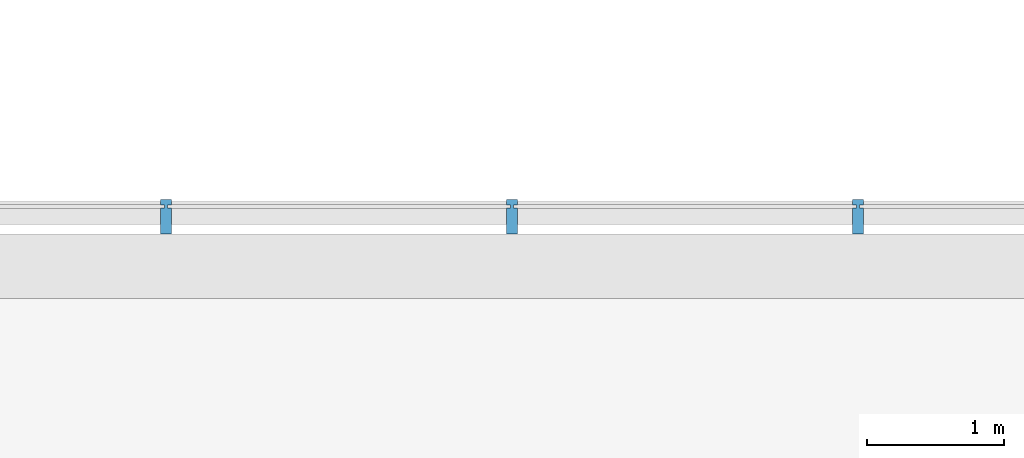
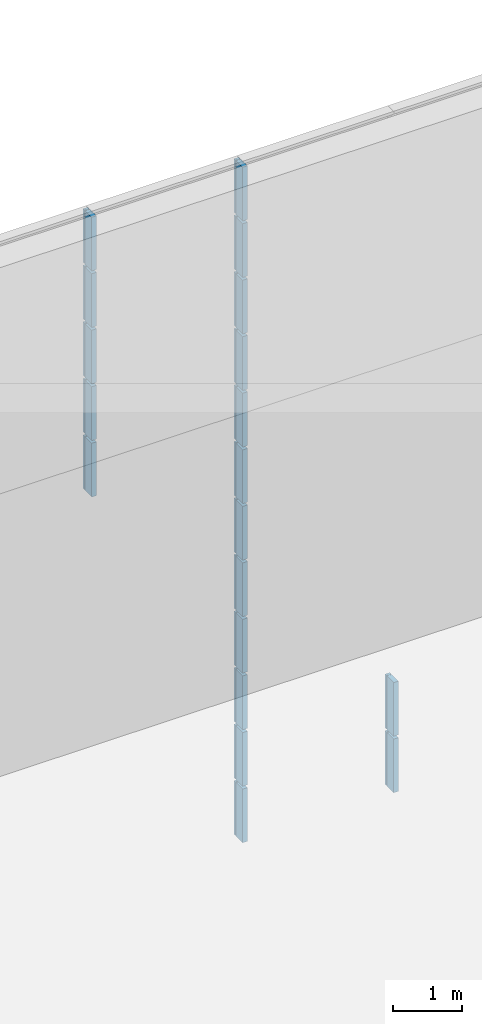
# One storey, part 98 of 105: 19 building element parts, 4 elements without a shape of their own.
"""IFC4 building model written with IfcOpenShell, lengths in millimetres."""

from ifc_helpers import new_model, entity, si_unit, converted_unit, derived_unit, direction, frame, origin_with_axes, place, context, subcontext, project, spatial, triangles, material, element, aggregate, save


model = new_model("IFC4")

# Units and contexts
model_context = context("Model", 3, precision=1e-05, world=origin_with_axes(), true_north=direction((0.0, 1.0)))
body_context = subcontext(model_context, "Body", "Model", "MODEL_VIEW")
ifc_project = project(units=[si_unit("LENGTHUNIT", "METRE", prefix="MILLI"), si_unit("AREAUNIT", "SQUARE_METRE"), si_unit("VOLUMEUNIT", "CUBIC_METRE"), converted_unit("PLANEANGLEUNIT", "DEGREE", entity("IfcLengthMeasure", 0.017453), si_unit("PLANEANGLEUNIT", "RADIAN"), dimensions=[0, 0, 0, 0, 0, 0, 0]), si_unit("SOLIDANGLEUNIT", "STERADIAN"), si_unit("MASSUNIT", "GRAM"), si_unit("TIMEUNIT", "SECOND"), si_unit("THERMODYNAMICTEMPERATUREUNIT", "DEGREE_CELSIUS"), si_unit("LUMINOUSINTENSITYUNIT", "LUMEN"), si_unit("POWERUNIT", "WATT"), derived_unit("THERMALTRANSMITTANCEUNIT", [(si_unit("POWERUNIT", "WATT"), 1), (si_unit("THERMODYNAMICTEMPERATUREUNIT", "KELVIN"), -1), (si_unit("AREAUNIT", "SQUARE_METRE"), -1)])], contexts=[model_context])

# Site, building, storey
site_placement = place(None, origin_with_axes())
site = spatial("IfcSite", under=ifc_project, at=site_placement, Name="Default Site", CompositionType="ELEMENT")
building_placement = place(site_placement, origin_with_axes())
building = spatial("IfcBuilding", under=site, at=building_placement, Name="Default Building", CompositionType="ELEMENT")
storey_placement = place(building_placement, origin_with_axes())
storey = spatial("IfcBuildingStorey", under=building, at=storey_placement, Name="OG - Story", CompositionType="ELEMENT", Elevation=0.0)

# Curtain wall, building element parts
curtain_wall_1_placement = place(storey_placement, origin_with_axes())
curtain_wall_1 = element("IfcCurtainWall", 1, at=curtain_wall_1_placement, inside=storey, Name="Fassade-004", PredefinedType="NOTDEFINED")
ifc_material = material(Name="Blech")
building_element_part_1_placement = place(curtain_wall_1_placement, frame((33014.549222, -4389.262838, 0.0), z_axis=(0.0, 0.0, 1.0), x_axis=(1.0, 0.0, 0.0)))
building_element_part_1 = element("IfcBuildingElementPart", 2, at=building_element_part_1_placement, material=ifc_material, Name="Blech", PredefinedType="NOTDEFINED", context=body_context, shape_type="Tessellation", body=[
    triangles([(36671.579, -9.999, 975.0), (36671.579, -199.999, 975.0), (36641.579, -9.999, 975.0), (36621.579, -9.999, 975.0), (36641.579, 10.0, 975.0), (36671.579, 50.0, 975.0), (36671.579, 10.0, 975.0), (36591.579, -199.999, 975.0), (36591.579, -9.999, 975.0), (36621.579, 10.0, 975.0), (36591.579, 10.0, 975.0), (36591.579, 50.0, 975.0), (36641.579, -9.999, 25.0), (36641.579, 10.0, 25.0), (36671.579, 10.0, 25.0), (36671.579, 50.0, 25.0), (36591.579, 50.0, 25.0), (36591.579, 10.0, 25.0), (36621.579, 10.0, 25.0), (36621.579, -9.999, 25.0), (36591.579, -9.999, 25.0), (36591.579, -199.999, 25.0), (36671.579, -199.999, 25.0), (36671.579, -9.999, 25.0)], [[1, 2, 3], [3, 2, 4], [3, 4, 5], [5, 4, 6], [5, 6, 7], [8, 9, 4], [8, 4, 2], [6, 4, 10], [6, 10, 11], [6, 11, 12], [3, 13, 14], [3, 14, 5], [5, 14, 15], [5, 15, 7], [15, 16, 6], [15, 6, 7], [12, 6, 16], [12, 16, 17], [18, 11, 12], [18, 12, 17], [11, 18, 19], [11, 19, 10], [4, 10, 19], [4, 19, 20], [9, 4, 20], [9, 20, 21], [9, 21, 22], [9, 22, 8], [2, 8, 22], [2, 22, 23], [1, 2, 23], [1, 23, 24], [1, 24, 13], [1, 13, 3], [15, 16, 14], [14, 16, 19], [14, 19, 13], [13, 19, 23], [13, 23, 24], [17, 18, 19], [17, 19, 16], [23, 19, 20], [23, 20, 21], [23, 21, 22]], closed=False),
])
building_element_part_2_placement = place(curtain_wall_1_placement, frame((33014.549222, -4389.262838, 0.0), z_axis=(0.0, 0.0, 1.0), x_axis=(1.0, 0.0, 0.0)))
building_element_part_2 = element("IfcBuildingElementPart", 3, at=building_element_part_2_placement, material=ifc_material, Name="Blech", PredefinedType="NOTDEFINED", context=body_context, shape_type="Tessellation", body=[
    triangles([(39197.895, -9.999, 975.0), (39197.895, -199.999, 975.0), (39167.895, -9.999, 975.0), (39147.895, -9.999, 975.0), (39167.895, 10.0, 975.0), (39197.895, 50.0, 975.0), (39197.895, 10.0, 975.0), (39117.895, -199.999, 975.0), (39117.895, -9.999, 975.0), (39147.895, 10.0, 975.0), (39117.895, 10.0, 975.0), (39117.895, 50.0, 975.0), (39167.895, -9.999, 25.0), (39167.895, 10.0, 25.0), (39197.895, 10.0, 25.0), (39197.895, 50.0, 25.0), (39117.895, 50.0, 25.0), (39117.895, 10.0, 25.0), (39147.895, 10.0, 25.0), (39147.895, -9.999, 25.0), (39117.895, -9.999, 25.0), (39117.895, -199.999, 25.0), (39197.895, -199.999, 25.0), (39197.895, -9.999, 25.0)], [[1, 2, 3], [3, 2, 4], [3, 4, 5], [5, 4, 6], [5, 6, 7], [8, 9, 4], [8, 4, 2], [6, 4, 10], [6, 10, 11], [6, 11, 12], [3, 13, 14], [3, 14, 5], [5, 14, 15], [5, 15, 7], [15, 16, 6], [15, 6, 7], [12, 6, 16], [12, 16, 17], [18, 11, 12], [18, 12, 17], [11, 18, 19], [11, 19, 10], [4, 10, 19], [4, 19, 20], [9, 4, 20], [9, 20, 21], [9, 21, 22], [9, 22, 8], [2, 8, 22], [2, 22, 23], [1, 2, 23], [1, 23, 24], [1, 24, 13], [1, 13, 3], [15, 16, 14], [14, 16, 19], [14, 19, 13], [13, 19, 23], [13, 23, 24], [17, 18, 19], [17, 19, 16], [23, 19, 20], [23, 20, 21], [23, 21, 22]], closed=False),
])
building_element_part_3_placement = place(curtain_wall_1_placement, frame((33014.549222, -4389.262838, 0.0), z_axis=(0.0, 0.0, 1.0), x_axis=(1.0, 0.0, 0.0)))
building_element_part_3 = element("IfcBuildingElementPart", 4, at=building_element_part_3_placement, material=ifc_material, Name="Blech", PredefinedType="NOTDEFINED", context=body_context, shape_type="Tessellation", body=[
    triangles([(36671.579, -9.999, 1975.0), (36671.579, -199.999, 1975.0), (36641.579, -9.999, 1975.0), (36621.579, -9.999, 1975.0), (36641.579, 10.0, 1975.0), (36671.579, 50.0, 1975.0), (36671.579, 10.0, 1975.0), (36591.579, -199.999, 1975.0), (36591.579, -9.999, 1975.0), (36621.579, 10.0, 1975.0), (36591.579, 10.0, 1975.0), (36591.579, 50.0, 1975.0), (36641.579, -9.999, 1025.0), (36641.579, 10.0, 1025.0), (36671.579, 10.0, 1025.0), (36671.579, 50.0, 1025.0), (36591.579, 50.0, 1025.0), (36591.579, 10.0, 1025.0), (36621.579, 10.0, 1025.0), (36621.579, -9.999, 1025.0), (36591.579, -9.999, 1025.0), (36591.579, -199.999, 1025.0), (36671.579, -199.999, 1025.0), (36671.579, -9.999, 1025.0)], [[1, 2, 3], [3, 2, 4], [3, 4, 5], [5, 4, 6], [5, 6, 7], [8, 9, 4], [8, 4, 2], [6, 4, 10], [6, 10, 11], [6, 11, 12], [3, 13, 14], [3, 14, 5], [5, 14, 15], [5, 15, 7], [15, 16, 6], [15, 6, 7], [12, 6, 16], [12, 16, 17], [18, 11, 12], [18, 12, 17], [11, 18, 19], [11, 19, 10], [4, 10, 19], [4, 19, 20], [9, 4, 20], [9, 20, 21], [9, 21, 22], [9, 22, 8], [2, 8, 22], [2, 22, 23], [1, 2, 23], [1, 23, 24], [1, 24, 13], [1, 13, 3], [15, 16, 14], [14, 16, 19], [14, 19, 13], [13, 19, 23], [13, 23, 24], [17, 18, 19], [17, 19, 16], [23, 19, 20], [23, 20, 21], [23, 21, 22]], closed=False),
])
building_element_part_4_placement = place(curtain_wall_1_placement, frame((33014.549222, -4389.262838, 0.0), z_axis=(0.0, 0.0, 1.0), x_axis=(1.0, 0.0, 0.0)))
building_element_part_4 = element("IfcBuildingElementPart", 5, at=building_element_part_4_placement, material=ifc_material, Name="Blech", PredefinedType="NOTDEFINED", context=body_context, shape_type="Tessellation", body=[
    triangles([(39197.895, -9.999, 1975.0), (39197.895, -199.999, 1975.0), (39167.895, -9.999, 1975.0), (39147.895, -9.999, 1975.0), (39167.895, 10.0, 1975.0), (39197.895, 50.0, 1975.0), (39197.895, 10.0, 1975.0), (39117.895, -199.999, 1975.0), (39117.895, -9.999, 1975.0), (39147.895, 10.0, 1975.0), (39117.895, 10.0, 1975.0), (39117.895, 50.0, 1975.0), (39167.895, -9.999, 1025.0), (39167.895, 10.0, 1025.0), (39197.895, 10.0, 1025.0), (39197.895, 50.0, 1025.0), (39117.895, 50.0, 1025.0), (39117.895, 10.0, 1025.0), (39147.895, 10.0, 1025.0), (39147.895, -9.999, 1025.0), (39117.895, -9.999, 1025.0), (39117.895, -199.999, 1025.0), (39197.895, -199.999, 1025.0), (39197.895, -9.999, 1025.0)], [[1, 2, 3], [3, 2, 4], [3, 4, 5], [5, 4, 6], [5, 6, 7], [8, 9, 4], [8, 4, 2], [6, 4, 10], [6, 10, 11], [6, 11, 12], [3, 13, 14], [3, 14, 5], [5, 14, 15], [5, 15, 7], [15, 16, 6], [15, 6, 7], [12, 6, 16], [12, 16, 17], [18, 11, 12], [18, 12, 17], [11, 18, 19], [11, 19, 10], [4, 10, 19], [4, 19, 20], [9, 4, 20], [9, 20, 21], [9, 21, 22], [9, 22, 8], [2, 8, 22], [2, 22, 23], [1, 2, 23], [1, 23, 24], [1, 24, 13], [1, 13, 3], [15, 16, 14], [14, 16, 19], [14, 19, 13], [13, 19, 23], [13, 23, 24], [17, 18, 19], [17, 19, 16], [23, 19, 20], [23, 20, 21], [23, 21, 22]], closed=False),
])
building_element_part_5_placement = place(curtain_wall_1_placement, frame((33014.549222, -4389.262838, 0.0), z_axis=(0.0, 0.0, 1.0), x_axis=(1.0, 0.0, 0.0)))
building_element_part_5 = element("IfcBuildingElementPart", 6, at=building_element_part_5_placement, material=ifc_material, Name="Blech", PredefinedType="NOTDEFINED", context=body_context, shape_type="Tessellation", body=[
    triangles([(36671.579, -9.999, 2975.0), (36671.579, -199.999, 2975.0), (36641.579, -9.999, 2975.0), (36621.579, -9.999, 2975.0), (36641.579, 10.0, 2975.0), (36671.579, 50.0, 2975.0), (36671.579, 10.0, 2975.0), (36591.579, -199.999, 2975.0), (36591.579, -9.999, 2975.0), (36621.579, 10.0, 2975.0), (36591.579, 10.0, 2975.0), (36591.579, 50.0, 2975.0), (36641.579, -9.999, 2025.0), (36641.579, 10.0, 2025.0), (36671.579, 10.0, 2025.0), (36671.579, 50.0, 2025.0), (36591.579, 50.0, 2025.0), (36591.579, 10.0, 2025.0), (36621.579, 10.0, 2025.0), (36621.579, -9.999, 2025.0), (36591.579, -9.999, 2025.0), (36591.579, -199.999, 2025.0), (36671.579, -199.999, 2025.0), (36671.579, -9.999, 2025.0)], [[1, 2, 3], [3, 2, 4], [3, 4, 5], [5, 4, 6], [5, 6, 7], [8, 9, 4], [8, 4, 2], [6, 4, 10], [6, 10, 11], [6, 11, 12], [3, 13, 14], [3, 14, 5], [5, 14, 15], [5, 15, 7], [15, 16, 6], [15, 6, 7], [12, 6, 16], [12, 16, 17], [18, 11, 12], [18, 12, 17], [11, 18, 19], [11, 19, 10], [4, 10, 19], [4, 19, 20], [9, 4, 20], [9, 20, 21], [9, 21, 22], [9, 22, 8], [2, 8, 22], [2, 22, 23], [1, 2, 23], [1, 23, 24], [1, 24, 13], [1, 13, 3], [15, 16, 14], [14, 16, 19], [14, 19, 13], [13, 19, 23], [13, 23, 24], [17, 18, 19], [17, 19, 16], [23, 19, 20], [23, 20, 21], [23, 21, 22]], closed=False),
])
aggregate(curtain_wall_1, [building_element_part_1, building_element_part_2, building_element_part_3, building_element_part_4, building_element_part_5])

curtain_wall_2_placement = place(storey_placement, origin_with_axes())
curtain_wall_2 = element("IfcCurtainWall", 7, at=curtain_wall_2_placement, inside=storey, Name="Fassade-004", PredefinedType="NOTDEFINED")
building_element_part_6_placement = place(curtain_wall_2_placement, frame((33014.549222, -4389.262838, 3000.0), z_axis=(0.0, 0.0, 1.0), x_axis=(1.0, 0.0, 0.0)))
building_element_part_6 = element("IfcBuildingElementPart", 8, at=building_element_part_6_placement, material=ifc_material, Name="Blech", PredefinedType="NOTDEFINED", context=body_context, shape_type="Tessellation", body=[
    triangles([(36671.579, -9.999, 975.0), (36671.579, -199.999, 975.0), (36641.579, -9.999, 975.0), (36621.579, -9.999, 975.0), (36641.579, 10.0, 975.0), (36671.579, 50.0, 975.0), (36671.579, 10.0, 975.0), (36591.579, -199.999, 975.0), (36591.579, -9.999, 975.0), (36621.579, 10.0, 975.0), (36591.579, 10.0, 975.0), (36591.579, 50.0, 975.0), (36641.579, -9.999, 25.0), (36641.579, 10.0, 25.0), (36671.579, 10.0, 25.0), (36671.579, 50.0, 25.0), (36591.579, 50.0, 25.0), (36591.579, 10.0, 25.0), (36621.579, 10.0, 25.0), (36621.579, -9.999, 25.0), (36591.579, -9.999, 25.0), (36591.579, -199.999, 25.0), (36671.579, -199.999, 25.0), (36671.579, -9.999, 25.0)], [[1, 2, 3], [3, 2, 4], [3, 4, 5], [5, 4, 6], [5, 6, 7], [8, 9, 4], [8, 4, 2], [6, 4, 10], [6, 10, 11], [6, 11, 12], [3, 13, 14], [3, 14, 5], [5, 14, 15], [5, 15, 7], [15, 16, 6], [15, 6, 7], [12, 6, 16], [12, 16, 17], [18, 11, 12], [18, 12, 17], [11, 18, 19], [11, 19, 10], [4, 10, 19], [4, 19, 20], [9, 4, 20], [9, 20, 21], [9, 21, 22], [9, 22, 8], [2, 8, 22], [2, 22, 23], [1, 2, 23], [1, 23, 24], [1, 24, 13], [1, 13, 3], [15, 16, 14], [14, 16, 19], [14, 19, 13], [13, 19, 23], [13, 23, 24], [17, 18, 19], [17, 19, 16], [23, 19, 20], [23, 20, 21], [23, 21, 22]], closed=False),
])
building_element_part_7_placement = place(curtain_wall_2_placement, frame((33014.549222, -4389.262838, 3000.0), z_axis=(0.0, 0.0, 1.0), x_axis=(1.0, 0.0, 0.0)))
building_element_part_7 = element("IfcBuildingElementPart", 9, at=building_element_part_7_placement, material=ifc_material, Name="Blech", PredefinedType="NOTDEFINED", context=body_context, shape_type="Tessellation", body=[
    triangles([(36671.579, -9.999, 1975.0), (36671.579, -199.999, 1975.0), (36641.579, -9.999, 1975.0), (36621.579, -9.999, 1975.0), (36641.579, 10.0, 1975.0), (36671.579, 50.0, 1975.0), (36671.579, 10.0, 1975.0), (36591.579, -199.999, 1975.0), (36591.579, -9.999, 1975.0), (36621.579, 10.0, 1975.0), (36591.579, 10.0, 1975.0), (36591.579, 50.0, 1975.0), (36641.579, -9.999, 1025.0), (36641.579, 10.0, 1025.0), (36671.579, 10.0, 1025.0), (36671.579, 50.0, 1025.0), (36591.579, 50.0, 1025.0), (36591.579, 10.0, 1025.0), (36621.579, 10.0, 1025.0), (36621.579, -9.999, 1025.0), (36591.579, -9.999, 1025.0), (36591.579, -199.999, 1025.0), (36671.579, -199.999, 1025.0), (36671.579, -9.999, 1025.0)], [[1, 2, 3], [3, 2, 4], [3, 4, 5], [5, 4, 6], [5, 6, 7], [8, 9, 4], [8, 4, 2], [6, 4, 10], [6, 10, 11], [6, 11, 12], [3, 13, 14], [3, 14, 5], [5, 14, 15], [5, 15, 7], [15, 16, 6], [15, 6, 7], [12, 6, 16], [12, 16, 17], [18, 11, 12], [18, 12, 17], [11, 18, 19], [11, 19, 10], [4, 10, 19], [4, 19, 20], [9, 4, 20], [9, 20, 21], [9, 21, 22], [9, 22, 8], [2, 8, 22], [2, 22, 23], [1, 2, 23], [1, 23, 24], [1, 24, 13], [1, 13, 3], [15, 16, 14], [14, 16, 19], [14, 19, 13], [13, 19, 23], [13, 23, 24], [17, 18, 19], [17, 19, 16], [23, 19, 20], [23, 20, 21], [23, 21, 22]], closed=False),
])
building_element_part_8_placement = place(curtain_wall_2_placement, frame((33014.549222, -4389.262838, 3000.0), z_axis=(0.0, 0.0, 1.0), x_axis=(1.0, 0.0, 0.0)))
building_element_part_8 = element("IfcBuildingElementPart", 10, at=building_element_part_8_placement, material=ifc_material, Name="Blech", PredefinedType="NOTDEFINED", context=body_context, shape_type="Tessellation", body=[
    triangles([(36671.579, -9.999, 2975.0), (36671.579, -199.999, 2975.0), (36641.579, -9.999, 2975.0), (36621.579, -9.999, 2975.0), (36641.579, 10.0, 2975.0), (36671.579, 50.0, 2975.0), (36671.579, 10.0, 2975.0), (36591.579, -199.999, 2975.0), (36591.579, -9.999, 2975.0), (36621.579, 10.0, 2975.0), (36591.579, 10.0, 2975.0), (36591.579, 50.0, 2975.0), (36641.579, -9.999, 2025.0), (36641.579, 10.0, 2025.0), (36671.579, 10.0, 2025.0), (36671.579, 50.0, 2025.0), (36591.579, 50.0, 2025.0), (36591.579, 10.0, 2025.0), (36621.579, 10.0, 2025.0), (36621.579, -9.999, 2025.0), (36591.579, -9.999, 2025.0), (36591.579, -199.999, 2025.0), (36671.579, -199.999, 2025.0), (36671.579, -9.999, 2025.0)], [[1, 2, 3], [3, 2, 4], [3, 4, 5], [5, 4, 6], [5, 6, 7], [8, 9, 4], [8, 4, 2], [6, 4, 10], [6, 10, 11], [6, 11, 12], [3, 13, 14], [3, 14, 5], [5, 14, 15], [5, 15, 7], [15, 16, 6], [15, 6, 7], [12, 6, 16], [12, 16, 17], [18, 11, 12], [18, 12, 17], [11, 18, 19], [11, 19, 10], [4, 10, 19], [4, 19, 20], [9, 4, 20], [9, 20, 21], [9, 21, 22], [9, 22, 8], [2, 8, 22], [2, 22, 23], [1, 2, 23], [1, 23, 24], [1, 24, 13], [1, 13, 3], [15, 16, 14], [14, 16, 19], [14, 19, 13], [13, 19, 23], [13, 23, 24], [17, 18, 19], [17, 19, 16], [23, 19, 20], [23, 20, 21], [23, 21, 22]], closed=False),
])
aggregate(curtain_wall_2, [building_element_part_6, building_element_part_7, building_element_part_8])

curtain_wall_3_placement = place(storey_placement, origin_with_axes())
curtain_wall_3 = element("IfcCurtainWall", 11, at=curtain_wall_3_placement, inside=storey, Name="Fassade-004", PredefinedType="NOTDEFINED")
building_element_part_9_placement = place(curtain_wall_3_placement, frame((33014.549222, -4389.262838, 6000.0), z_axis=(0.0, 0.0, 1.0), x_axis=(1.0, 0.0, 0.0)))
building_element_part_9 = element("IfcBuildingElementPart", 12, at=building_element_part_9_placement, material=ifc_material, Name="Blech", PredefinedType="NOTDEFINED", context=body_context, shape_type="Tessellation", body=[
    triangles([(36671.579, -9.999, 975.0), (36671.579, -199.999, 975.0), (36641.579, -9.999, 975.0), (36621.579, -9.999, 975.0), (36641.579, 10.0, 975.0), (36671.579, 50.0, 975.0), (36671.579, 10.0, 975.0), (36591.579, -199.999, 975.0), (36591.579, -9.999, 975.0), (36621.579, 10.0, 975.0), (36591.579, 10.0, 975.0), (36591.579, 50.0, 975.0), (36641.579, -9.999, 25.0), (36641.579, 10.0, 25.0), (36671.579, 10.0, 25.0), (36671.579, 50.0, 25.0), (36591.579, 50.0, 25.0), (36591.579, 10.0, 25.0), (36621.579, 10.0, 25.0), (36621.579, -9.999, 25.0), (36591.579, -9.999, 25.0), (36591.579, -199.999, 25.0), (36671.579, -199.999, 25.0), (36671.579, -9.999, 25.0)], [[1, 2, 3], [3, 2, 4], [3, 4, 5], [5, 4, 6], [5, 6, 7], [8, 9, 4], [8, 4, 2], [6, 4, 10], [6, 10, 11], [6, 11, 12], [3, 13, 14], [3, 14, 5], [5, 14, 15], [5, 15, 7], [15, 16, 6], [15, 6, 7], [12, 6, 16], [12, 16, 17], [18, 11, 12], [18, 12, 17], [11, 18, 19], [11, 19, 10], [4, 10, 19], [4, 19, 20], [9, 4, 20], [9, 20, 21], [9, 21, 22], [9, 22, 8], [2, 8, 22], [2, 22, 23], [1, 2, 23], [1, 23, 24], [1, 24, 13], [1, 13, 3], [15, 16, 14], [14, 16, 19], [14, 19, 13], [13, 19, 23], [13, 23, 24], [17, 18, 19], [17, 19, 16], [23, 19, 20], [23, 20, 21], [23, 21, 22]], closed=False),
])
building_element_part_10_placement = place(curtain_wall_3_placement, frame((33014.549222, -4389.262838, 6000.0), z_axis=(0.0, 0.0, 1.0), x_axis=(1.0, 0.0, 0.0)))
building_element_part_10 = element("IfcBuildingElementPart", 13, at=building_element_part_10_placement, material=ifc_material, Name="Blech", PredefinedType="NOTDEFINED", context=body_context, shape_type="Tessellation", body=[
    triangles([(34145.263, -9.999, 1975.0), (34145.263, -199.999, 1975.0), (34115.263, -9.999, 1975.0), (34095.263, -9.999, 1975.0), (34115.263, 10.0, 1975.0), (34145.263, 50.0, 1975.0), (34145.263, 10.0, 1975.0), (34065.263, -199.999, 1975.0), (34065.263, -9.999, 1975.0), (34095.263, 10.0, 1975.0), (34065.263, 10.0, 1975.0), (34065.263, 50.0, 1975.0), (34115.263, -9.999, 1025.0), (34115.263, 10.0, 1025.0), (34145.263, 10.0, 1025.0), (34145.263, 50.0, 1025.0), (34065.263, 50.0, 1025.0), (34065.263, 10.0, 1025.0), (34095.263, 10.0, 1025.0), (34095.263, -9.999, 1025.0), (34065.263, -9.999, 1025.0), (34065.263, -199.999, 1025.0), (34145.263, -199.999, 1025.0), (34145.263, -9.999, 1025.0)], [[1, 2, 3], [3, 2, 4], [3, 4, 5], [5, 4, 6], [5, 6, 7], [8, 9, 4], [8, 4, 2], [6, 4, 10], [6, 10, 11], [6, 11, 12], [3, 13, 14], [3, 14, 5], [5, 14, 15], [5, 15, 7], [15, 16, 6], [15, 6, 7], [12, 6, 16], [12, 16, 17], [18, 11, 12], [18, 12, 17], [11, 18, 19], [11, 19, 10], [4, 10, 19], [4, 19, 20], [9, 4, 20], [9, 20, 21], [9, 21, 22], [9, 22, 8], [2, 8, 22], [2, 22, 23], [1, 2, 23], [1, 23, 24], [1, 24, 13], [1, 13, 3], [15, 16, 14], [14, 16, 19], [14, 19, 13], [13, 19, 23], [13, 23, 24], [17, 18, 19], [17, 19, 16], [23, 19, 20], [23, 20, 21], [23, 21, 22]], closed=False),
])
building_element_part_11_placement = place(curtain_wall_3_placement, frame((33014.549222, -4389.262838, 6000.0), z_axis=(0.0, 0.0, 1.0), x_axis=(1.0, 0.0, 0.0)))
building_element_part_11 = element("IfcBuildingElementPart", 14, at=building_element_part_11_placement, material=ifc_material, Name="Blech", PredefinedType="NOTDEFINED", context=body_context, shape_type="Tessellation", body=[
    triangles([(36671.579, -9.999, 1975.0), (36671.579, -199.999, 1975.0), (36641.579, -9.999, 1975.0), (36621.579, -9.999, 1975.0), (36641.579, 10.0, 1975.0), (36671.579, 50.0, 1975.0), (36671.579, 10.0, 1975.0), (36591.579, -199.999, 1975.0), (36591.579, -9.999, 1975.0), (36621.579, 10.0, 1975.0), (36591.579, 10.0, 1975.0), (36591.579, 50.0, 1975.0), (36641.579, -9.999, 1025.0), (36641.579, 10.0, 1025.0), (36671.579, 10.0, 1025.0), (36671.579, 50.0, 1025.0), (36591.579, 50.0, 1025.0), (36591.579, 10.0, 1025.0), (36621.579, 10.0, 1025.0), (36621.579, -9.999, 1025.0), (36591.579, -9.999, 1025.0), (36591.579, -199.999, 1025.0), (36671.579, -199.999, 1025.0), (36671.579, -9.999, 1025.0)], [[1, 2, 3], [3, 2, 4], [3, 4, 5], [5, 4, 6], [5, 6, 7], [8, 9, 4], [8, 4, 2], [6, 4, 10], [6, 10, 11], [6, 11, 12], [3, 13, 14], [3, 14, 5], [5, 14, 15], [5, 15, 7], [15, 16, 6], [15, 6, 7], [12, 6, 16], [12, 16, 17], [18, 11, 12], [18, 12, 17], [11, 18, 19], [11, 19, 10], [4, 10, 19], [4, 19, 20], [9, 4, 20], [9, 20, 21], [9, 21, 22], [9, 22, 8], [2, 8, 22], [2, 22, 23], [1, 2, 23], [1, 23, 24], [1, 24, 13], [1, 13, 3], [15, 16, 14], [14, 16, 19], [14, 19, 13], [13, 19, 23], [13, 23, 24], [17, 18, 19], [17, 19, 16], [23, 19, 20], [23, 20, 21], [23, 21, 22]], closed=False),
])
building_element_part_12_placement = place(curtain_wall_3_placement, frame((33014.549222, -4389.262838, 6000.0), z_axis=(0.0, 0.0, 1.0), x_axis=(1.0, 0.0, 0.0)))
building_element_part_12 = element("IfcBuildingElementPart", 15, at=building_element_part_12_placement, material=ifc_material, Name="Blech", PredefinedType="NOTDEFINED", context=body_context, shape_type="Tessellation", body=[
    triangles([(34145.263, -9.999, 2975.0), (34145.263, -199.999, 2975.0), (34115.263, -9.999, 2975.0), (34095.263, -9.999, 2975.0), (34115.263, 10.0, 2975.0), (34145.263, 50.0, 2975.0), (34145.263, 10.0, 2975.0), (34065.263, -199.999, 2975.0), (34065.263, -9.999, 2975.0), (34095.263, 10.0, 2975.0), (34065.263, 10.0, 2975.0), (34065.263, 50.0, 2975.0), (34115.263, -9.999, 2025.0), (34115.263, 10.0, 2025.0), (34145.263, 10.0, 2025.0), (34145.263, 50.0, 2025.0), (34065.263, 50.0, 2025.0), (34065.263, 10.0, 2025.0), (34095.263, 10.0, 2025.0), (34095.263, -9.999, 2025.0), (34065.263, -9.999, 2025.0), (34065.263, -199.999, 2025.0), (34145.263, -199.999, 2025.0), (34145.263, -9.999, 2025.0)], [[1, 2, 3], [3, 2, 4], [3, 4, 5], [5, 4, 6], [5, 6, 7], [8, 9, 4], [8, 4, 2], [6, 4, 10], [6, 10, 11], [6, 11, 12], [3, 13, 14], [3, 14, 5], [5, 14, 15], [5, 15, 7], [15, 16, 6], [15, 6, 7], [12, 6, 16], [12, 16, 17], [18, 11, 12], [18, 12, 17], [11, 18, 19], [11, 19, 10], [4, 10, 19], [4, 19, 20], [9, 4, 20], [9, 20, 21], [9, 21, 22], [9, 22, 8], [2, 8, 22], [2, 22, 23], [1, 2, 23], [1, 23, 24], [1, 24, 13], [1, 13, 3], [15, 16, 14], [14, 16, 19], [14, 19, 13], [13, 19, 23], [13, 23, 24], [17, 18, 19], [17, 19, 16], [23, 19, 20], [23, 20, 21], [23, 21, 22]], closed=False),
])
building_element_part_13_placement = place(curtain_wall_3_placement, frame((33014.549222, -4389.262838, 6000.0), z_axis=(0.0, 0.0, 1.0), x_axis=(1.0, 0.0, 0.0)))
building_element_part_13 = element("IfcBuildingElementPart", 16, at=building_element_part_13_placement, material=ifc_material, Name="Blech", PredefinedType="NOTDEFINED", context=body_context, shape_type="Tessellation", body=[
    triangles([(36671.579, -9.999, 2975.0), (36671.579, -199.999, 2975.0), (36641.579, -9.999, 2975.0), (36621.579, -9.999, 2975.0), (36641.579, 10.0, 2975.0), (36671.579, 50.0, 2975.0), (36671.579, 10.0, 2975.0), (36591.579, -199.999, 2975.0), (36591.579, -9.999, 2975.0), (36621.579, 10.0, 2975.0), (36591.579, 10.0, 2975.0), (36591.579, 50.0, 2975.0), (36641.579, -9.999, 2025.0), (36641.579, 10.0, 2025.0), (36671.579, 10.0, 2025.0), (36671.579, 50.0, 2025.0), (36591.579, 50.0, 2025.0), (36591.579, 10.0, 2025.0), (36621.579, 10.0, 2025.0), (36621.579, -9.999, 2025.0), (36591.579, -9.999, 2025.0), (36591.579, -199.999, 2025.0), (36671.579, -199.999, 2025.0), (36671.579, -9.999, 2025.0)], [[1, 2, 3], [3, 2, 4], [3, 4, 5], [5, 4, 6], [5, 6, 7], [8, 9, 4], [8, 4, 2], [6, 4, 10], [6, 10, 11], [6, 11, 12], [3, 13, 14], [3, 14, 5], [5, 14, 15], [5, 15, 7], [15, 16, 6], [15, 6, 7], [12, 6, 16], [12, 16, 17], [18, 11, 12], [18, 12, 17], [11, 18, 19], [11, 19, 10], [4, 10, 19], [4, 19, 20], [9, 4, 20], [9, 20, 21], [9, 21, 22], [9, 22, 8], [2, 8, 22], [2, 22, 23], [1, 2, 23], [1, 23, 24], [1, 24, 13], [1, 13, 3], [15, 16, 14], [14, 16, 19], [14, 19, 13], [13, 19, 23], [13, 23, 24], [17, 18, 19], [17, 19, 16], [23, 19, 20], [23, 20, 21], [23, 21, 22]], closed=False),
])
aggregate(curtain_wall_3, [building_element_part_9, building_element_part_10, building_element_part_11, building_element_part_12, building_element_part_13])

curtain_wall_4_placement = place(storey_placement, origin_with_axes())
curtain_wall_4 = element("IfcCurtainWall", 17, at=curtain_wall_4_placement, inside=storey, Name="Fassade-004", PredefinedType="NOTDEFINED")
building_element_part_14_placement = place(curtain_wall_4_placement, frame((33014.549222, -4389.262838, 9000.0), z_axis=(0.0, 0.0, 1.0), x_axis=(1.0, 0.0, 0.0)))
building_element_part_14 = element("IfcBuildingElementPart", 18, at=building_element_part_14_placement, material=ifc_material, Name="Blech", PredefinedType="NOTDEFINED", context=body_context, shape_type="Tessellation", body=[
    triangles([(34145.263, -9.999, 975.0), (34145.263, -199.999, 975.0), (34115.263, -9.999, 975.0), (34095.263, -9.999, 975.0), (34115.263, 10.0, 975.0), (34145.263, 50.0, 975.0), (34145.263, 10.0, 975.0), (34065.263, -199.999, 975.0), (34065.263, -9.999, 975.0), (34095.263, 10.0, 975.0), (34065.263, 10.0, 975.0), (34065.263, 50.0, 975.0), (34115.263, -9.999, 25.0), (34115.263, 10.0, 25.0), (34145.263, 10.0, 25.0), (34145.263, 50.0, 25.0), (34065.263, 50.0, 25.0), (34065.263, 10.0, 25.0), (34095.263, 10.0, 25.0), (34095.263, -9.999, 25.0), (34065.263, -9.999, 25.0), (34065.263, -199.999, 25.0), (34145.263, -199.999, 25.0), (34145.263, -9.999, 25.0)], [[1, 2, 3], [3, 2, 4], [3, 4, 5], [5, 4, 6], [5, 6, 7], [8, 9, 4], [8, 4, 2], [6, 4, 10], [6, 10, 11], [6, 11, 12], [3, 13, 14], [3, 14, 5], [5, 14, 15], [5, 15, 7], [15, 16, 6], [15, 6, 7], [12, 6, 16], [12, 16, 17], [18, 11, 12], [18, 12, 17], [11, 18, 19], [11, 19, 10], [4, 10, 19], [4, 19, 20], [9, 4, 20], [9, 20, 21], [9, 21, 22], [9, 22, 8], [2, 8, 22], [2, 22, 23], [1, 2, 23], [1, 23, 24], [1, 24, 13], [1, 13, 3], [15, 16, 14], [14, 16, 19], [14, 19, 13], [13, 19, 23], [13, 23, 24], [17, 18, 19], [17, 19, 16], [23, 19, 20], [23, 20, 21], [23, 21, 22]], closed=False),
])
building_element_part_15_placement = place(curtain_wall_4_placement, frame((33014.549222, -4389.262838, 9000.0), z_axis=(0.0, 0.0, 1.0), x_axis=(1.0, 0.0, 0.0)))
building_element_part_15 = element("IfcBuildingElementPart", 19, at=building_element_part_15_placement, material=ifc_material, Name="Blech", PredefinedType="NOTDEFINED", context=body_context, shape_type="Tessellation", body=[
    triangles([(36671.579, -9.999, 975.0), (36671.579, -199.999, 975.0), (36641.579, -9.999, 975.0), (36621.579, -9.999, 975.0), (36641.579, 10.0, 975.0), (36671.579, 50.0, 975.0), (36671.579, 10.0, 975.0), (36591.579, -199.999, 975.0), (36591.579, -9.999, 975.0), (36621.579, 10.0, 975.0), (36591.579, 10.0, 975.0), (36591.579, 50.0, 975.0), (36641.579, -9.999, 25.0), (36641.579, 10.0, 25.0), (36671.579, 10.0, 25.0), (36671.579, 50.0, 25.0), (36591.579, 50.0, 25.0), (36591.579, 10.0, 25.0), (36621.579, 10.0, 25.0), (36621.579, -9.999, 25.0), (36591.579, -9.999, 25.0), (36591.579, -199.999, 25.0), (36671.579, -199.999, 25.0), (36671.579, -9.999, 25.0)], [[1, 2, 3], [3, 2, 4], [3, 4, 5], [5, 4, 6], [5, 6, 7], [8, 9, 4], [8, 4, 2], [6, 4, 10], [6, 10, 11], [6, 11, 12], [3, 13, 14], [3, 14, 5], [5, 14, 15], [5, 15, 7], [15, 16, 6], [15, 6, 7], [12, 6, 16], [12, 16, 17], [18, 11, 12], [18, 12, 17], [11, 18, 19], [11, 19, 10], [4, 10, 19], [4, 19, 20], [9, 4, 20], [9, 20, 21], [9, 21, 22], [9, 22, 8], [2, 8, 22], [2, 22, 23], [1, 2, 23], [1, 23, 24], [1, 24, 13], [1, 13, 3], [15, 16, 14], [14, 16, 19], [14, 19, 13], [13, 19, 23], [13, 23, 24], [17, 18, 19], [17, 19, 16], [23, 19, 20], [23, 20, 21], [23, 21, 22]], closed=False),
])
building_element_part_16_placement = place(curtain_wall_4_placement, frame((33014.549222, -4389.262838, 9000.0), z_axis=(0.0, 0.0, 1.0), x_axis=(1.0, 0.0, 0.0)))
building_element_part_16 = element("IfcBuildingElementPart", 20, at=building_element_part_16_placement, material=ifc_material, Name="Blech", PredefinedType="NOTDEFINED", context=body_context, shape_type="Tessellation", body=[
    triangles([(34145.263, -9.999, 1975.0), (34145.263, -199.999, 1975.0), (34115.263, -9.999, 1975.0), (34095.263, -9.999, 1975.0), (34115.263, 10.0, 1975.0), (34145.263, 50.0, 1975.0), (34145.263, 10.0, 1975.0), (34065.263, -199.999, 1975.0), (34065.263, -9.999, 1975.0), (34095.263, 10.0, 1975.0), (34065.263, 10.0, 1975.0), (34065.263, 50.0, 1975.0), (34115.263, -9.999, 1025.0), (34115.263, 10.0, 1025.0), (34145.263, 10.0, 1025.0), (34145.263, 50.0, 1025.0), (34065.263, 50.0, 1025.0), (34065.263, 10.0, 1025.0), (34095.263, 10.0, 1025.0), (34095.263, -9.999, 1025.0), (34065.263, -9.999, 1025.0), (34065.263, -199.999, 1025.0), (34145.263, -199.999, 1025.0), (34145.263, -9.999, 1025.0)], [[1, 2, 3], [3, 2, 4], [3, 4, 5], [5, 4, 6], [5, 6, 7], [8, 9, 4], [8, 4, 2], [6, 4, 10], [6, 10, 11], [6, 11, 12], [3, 13, 14], [3, 14, 5], [5, 14, 15], [5, 15, 7], [15, 16, 6], [15, 6, 7], [12, 6, 16], [12, 16, 17], [18, 11, 12], [18, 12, 17], [11, 18, 19], [11, 19, 10], [4, 10, 19], [4, 19, 20], [9, 4, 20], [9, 20, 21], [9, 21, 22], [9, 22, 8], [2, 8, 22], [2, 22, 23], [1, 2, 23], [1, 23, 24], [1, 24, 13], [1, 13, 3], [15, 16, 14], [14, 16, 19], [14, 19, 13], [13, 19, 23], [13, 23, 24], [17, 18, 19], [17, 19, 16], [23, 19, 20], [23, 20, 21], [23, 21, 22]], closed=False),
])
building_element_part_17_placement = place(curtain_wall_4_placement, frame((33014.549222, -4389.262838, 9000.0), z_axis=(0.0, 0.0, 1.0), x_axis=(1.0, 0.0, 0.0)))
building_element_part_17 = element("IfcBuildingElementPart", 21, at=building_element_part_17_placement, material=ifc_material, Name="Blech", PredefinedType="NOTDEFINED", context=body_context, shape_type="Tessellation", body=[
    triangles([(36671.579, -9.999, 1975.0), (36671.579, -199.999, 1975.0), (36641.579, -9.999, 1975.0), (36621.579, -9.999, 1975.0), (36641.579, 10.0, 1975.0), (36671.579, 50.0, 1975.0), (36671.579, 10.0, 1975.0), (36591.579, -199.999, 1975.0), (36591.579, -9.999, 1975.0), (36621.579, 10.0, 1975.0), (36591.579, 10.0, 1975.0), (36591.579, 50.0, 1975.0), (36641.579, -9.999, 1025.0), (36641.579, 10.0, 1025.0), (36671.579, 10.0, 1025.0), (36671.579, 50.0, 1025.0), (36591.579, 50.0, 1025.0), (36591.579, 10.0, 1025.0), (36621.579, 10.0, 1025.0), (36621.579, -9.999, 1025.0), (36591.579, -9.999, 1025.0), (36591.579, -199.999, 1025.0), (36671.579, -199.999, 1025.0), (36671.579, -9.999, 1025.0)], [[1, 2, 3], [3, 2, 4], [3, 4, 5], [5, 4, 6], [5, 6, 7], [8, 9, 4], [8, 4, 2], [6, 4, 10], [6, 10, 11], [6, 11, 12], [3, 13, 14], [3, 14, 5], [5, 14, 15], [5, 15, 7], [15, 16, 6], [15, 6, 7], [12, 6, 16], [12, 16, 17], [18, 11, 12], [18, 12, 17], [11, 18, 19], [11, 19, 10], [4, 10, 19], [4, 19, 20], [9, 4, 20], [9, 20, 21], [9, 21, 22], [9, 22, 8], [2, 8, 22], [2, 22, 23], [1, 2, 23], [1, 23, 24], [1, 24, 13], [1, 13, 3], [15, 16, 14], [14, 16, 19], [14, 19, 13], [13, 19, 23], [13, 23, 24], [17, 18, 19], [17, 19, 16], [23, 19, 20], [23, 20, 21], [23, 21, 22]], closed=False),
])
building_element_part_18_placement = place(curtain_wall_4_placement, frame((33014.549222, -4389.262838, 9000.0), z_axis=(0.0, 0.0, 1.0), x_axis=(1.0, 0.0, 0.0)))
building_element_part_18 = element("IfcBuildingElementPart", 22, at=building_element_part_18_placement, material=ifc_material, Name="Blech", PredefinedType="NOTDEFINED", context=body_context, shape_type="Tessellation", body=[
    triangles([(34145.263, -9.999, 2975.0), (34145.263, -199.999, 2975.0), (34115.263, -9.999, 2975.0), (34095.263, -9.999, 2975.0), (34115.263, 10.0, 2975.0), (34145.263, 50.0, 2975.0), (34145.263, 10.0, 2975.0), (34065.263, -199.999, 2975.0), (34065.263, -9.999, 2975.0), (34095.263, 10.0, 2975.0), (34065.263, 10.0, 2975.0), (34065.263, 50.0, 2975.0), (34115.263, -9.999, 2025.0), (34115.263, 10.0, 2025.0), (34145.263, 10.0, 2025.0), (34145.263, 50.0, 2025.0), (34065.263, 50.0, 2025.0), (34065.263, 10.0, 2025.0), (34095.263, 10.0, 2025.0), (34095.263, -9.999, 2025.0), (34065.263, -9.999, 2025.0), (34065.263, -199.999, 2025.0), (34145.263, -199.999, 2025.0), (34145.263, -9.999, 2025.0)], [[1, 2, 3], [3, 2, 4], [3, 4, 5], [5, 4, 6], [5, 6, 7], [8, 9, 4], [8, 4, 2], [6, 4, 10], [6, 10, 11], [6, 11, 12], [3, 13, 14], [3, 14, 5], [5, 14, 15], [5, 15, 7], [15, 16, 6], [15, 6, 7], [12, 6, 16], [12, 16, 17], [18, 11, 12], [18, 12, 17], [11, 18, 19], [11, 19, 10], [4, 10, 19], [4, 19, 20], [9, 4, 20], [9, 20, 21], [9, 21, 22], [9, 22, 8], [2, 8, 22], [2, 22, 23], [1, 2, 23], [1, 23, 24], [1, 24, 13], [1, 13, 3], [15, 16, 14], [14, 16, 19], [14, 19, 13], [13, 19, 23], [13, 23, 24], [17, 18, 19], [17, 19, 16], [23, 19, 20], [23, 20, 21], [23, 21, 22]], closed=False),
])
building_element_part_19_placement = place(curtain_wall_4_placement, frame((33014.549222, -4389.262838, 9000.0), z_axis=(0.0, 0.0, 1.0), x_axis=(1.0, 0.0, 0.0)))
building_element_part_19 = element("IfcBuildingElementPart", 23, at=building_element_part_19_placement, material=ifc_material, Name="Blech", PredefinedType="NOTDEFINED", context=body_context, shape_type="Tessellation", body=[
    triangles([(36671.579, -9.999, 2975.0), (36671.579, -199.999, 2975.0), (36641.579, -9.999, 2975.0), (36621.579, -9.999, 2975.0), (36641.579, 10.0, 2975.0), (36671.579, 50.0, 2975.0), (36671.579, 10.0, 2975.0), (36591.579, -199.999, 2975.0), (36591.579, -9.999, 2975.0), (36621.579, 10.0, 2975.0), (36591.579, 10.0, 2975.0), (36591.579, 50.0, 2975.0), (36641.579, -9.999, 2025.0), (36641.579, 10.0, 2025.0), (36671.579, 10.0, 2025.0), (36671.579, 50.0, 2025.0), (36591.579, 50.0, 2025.0), (36591.579, 10.0, 2025.0), (36621.579, 10.0, 2025.0), (36621.579, -9.999, 2025.0), (36591.579, -9.999, 2025.0), (36591.579, -199.999, 2025.0), (36671.579, -199.999, 2025.0), (36671.579, -9.999, 2025.0)], [[1, 2, 3], [3, 2, 4], [3, 4, 5], [5, 4, 6], [5, 6, 7], [8, 9, 4], [8, 4, 2], [6, 4, 10], [6, 10, 11], [6, 11, 12], [3, 13, 14], [3, 14, 5], [5, 14, 15], [5, 15, 7], [15, 16, 6], [15, 6, 7], [12, 6, 16], [12, 16, 17], [18, 11, 12], [18, 12, 17], [11, 18, 19], [11, 19, 10], [4, 10, 19], [4, 19, 20], [9, 4, 20], [9, 20, 21], [9, 21, 22], [9, 22, 8], [2, 8, 22], [2, 22, 23], [1, 2, 23], [1, 23, 24], [1, 24, 13], [1, 13, 3], [15, 16, 14], [14, 16, 19], [14, 19, 13], [13, 19, 23], [13, 23, 24], [17, 18, 19], [17, 19, 16], [23, 19, 20], [23, 20, 21], [23, 21, 22]], closed=False),
])
aggregate(curtain_wall_4, [building_element_part_14, building_element_part_15, building_element_part_16, building_element_part_17, building_element_part_18, building_element_part_19])

save(model, "model.ifc")
